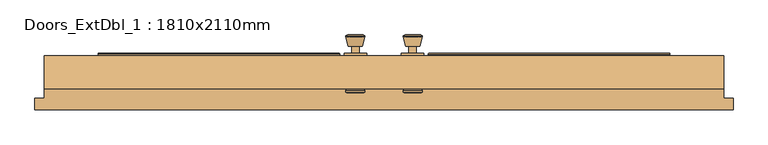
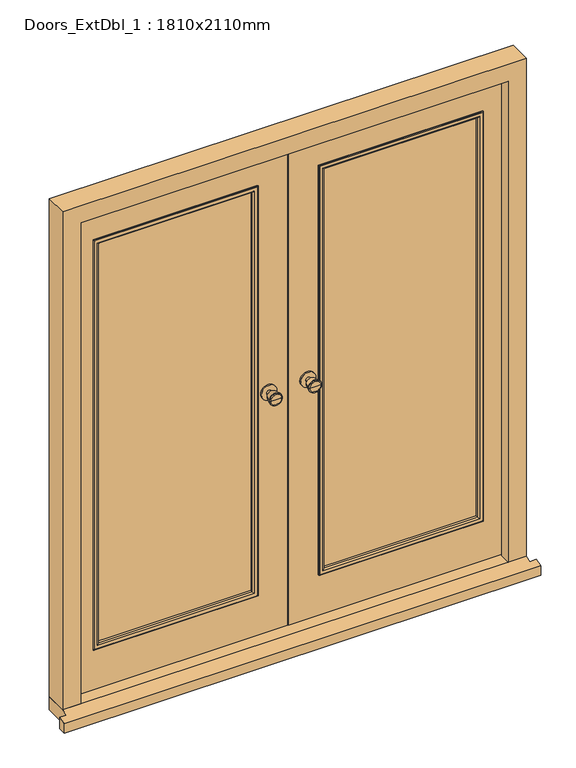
"""IFC4 building model written with IfcOpenShell, lengths in millimetres: door geometry, Doors_ExtDbl_1 : 1810x2110mm."""

from ifc_helpers import new_model, si_unit, point, frame, frame_2d, origin, place, context, project, spatial, polyline, circle_curve, ellipse_curve, trimmed, segment, composite_curve, outline, extrude, faceted_brep, source, transform, mapped, element, save
from ifc_brep_helpers import plane_surface, cylinder_surface, revolved_surface, advanced_brep


def doors_extdbl_1_1810x2110mm_0b28ebda(model_context):
    return source(origin(), model_context, "Body", "SolidModel", [
        advanced_brep(
        [(-76.5, 12.0, 1050.0), (-86.5, 12.0, 1050.0), (-66.5, 12.0, 1050.0), (-96.9758676, 61.0, 1050.0), (-76.5, 61.0, 1050.0), (-56.0241324, 61.0, 1050.0), (-101.5, 59.1721319, 1050.0), (-51.5, 59.1721319, 1050.0), (-101.5, 55.7084537, 1050.0), (-51.5, 55.7084537, 1050.0), (-95.136236, 31.0, 1050.0), (-57.863764, 31.0, 1050.0), (-86.5, 31.0, 1050.0), (-66.5, 31.0, 1050.0)],
        [
            (0, 1),
            (1, 2, circle_curve(frame((-76.5, 12.0, 1050.0), z_axis=(0.0, -1.0, 0.0), x_axis=(1.0, 0.0, 0.0)), 10.0)),
            (2, 0),
            (2, 1, circle_curve(frame((-76.5, 12.0, 1050.0), z_axis=(0.0, -1.0, 0.0), x_axis=(1.0, 0.0, 0.0)), 10.0)),
            (3, 4),
            (4, 5),
            (5, 3, circle_curve(frame((-76.5, 61.0, 1050.0), z_axis=(0.0, 1.0, 0.0), x_axis=(1.0, 0.0, 0.0)), 20.4758676)),
            (3, 5, circle_curve(frame((-76.5, 61.0, 1050.0), z_axis=(0.0, 1.0, 0.0), x_axis=(1.0, 0.0, 0.0)), 20.4758676)),
            (6, 3),
            (5, 7),
            (7, 6, circle_curve(frame((-76.5, 59.1721319, 1050.0), z_axis=(0.0, 1.0, 0.0), x_axis=(1.0, 0.0, 0.0)), 25.0)),
            (6, 7, circle_curve(frame((-76.5, 59.1721319, 1050.0), z_axis=(0.0, 1.0, 0.0), x_axis=(1.0, 0.0, 0.0)), 25.0)),
            (8, 6),
            (7, 9),
            (9, 8, circle_curve(frame((-76.5, 55.7084537, 1050.0), z_axis=(0.0, 1.0, 0.0), x_axis=(1.0, 0.0, 0.0)), 25.0)),
            (8, 9, circle_curve(frame((-76.5, 55.7084537, 1050.0), z_axis=(0.0, 1.0, 0.0), x_axis=(1.0, 0.0, 0.0)), 25.0)),
            (10, 8),
            (9, 11),
            (11, 10, circle_curve(frame((-76.5, 31.0, 1050.0), z_axis=(0.0, 1.0, 0.0), x_axis=(1.0, 0.0, 0.0)), 18.636236)),
            (10, 11, circle_curve(frame((-76.5, 31.0, 1050.0), z_axis=(0.0, 1.0, 0.0), x_axis=(1.0, 0.0, 0.0)), 18.636236)),
            (12, 10),
            (11, 13),
            (13, 12, circle_curve(frame((-76.5, 31.0, 1050.0), z_axis=(0.0, 1.0, 0.0), x_axis=(1.0, 0.0, 0.0)), 10.0)),
            (12, 13, circle_curve(frame((-76.5, 31.0, 1050.0), z_axis=(0.0, 1.0, 0.0), x_axis=(1.0, 0.0, 0.0)), 10.0)),
            (1, 12),
            (13, 2),
        ],
        [
            plane_surface(frame((-76.5, 12.0, 1050.0), z_axis=(0.0, -1.0, 0.0), x_axis=(1.0, 0.0, 0.0))),
            plane_surface(frame((-76.5, 61.0, 1050.0), z_axis=(0.0, 1.0, 0.0), x_axis=(1.0, 0.0, 0.0))),
            revolved_surface(polyline([(-56.0241324, 61.0, 1050.0), (-51.5, 59.1721319, 1050.0)]), (-76.5, 12.0, 1050.0), (0.0, -1.0, 0.0)),
            cylinder_surface(frame((-76.5, 12.0, 1050.0), z_axis=(0.0, -1.0, 0.0), x_axis=(1.0, 0.0, 0.0)), 25.0),
            revolved_surface(polyline([(-51.5, 55.7084537, 1050.0), (-57.863764, 31.0, 1050.0)]), (-76.5, 12.0, 1050.0), (0.0, -1.0, 0.0)),
            plane_surface(frame((-76.5, 31.0, 1050.0), z_axis=(0.0, -1.0, 0.0), x_axis=(1.0, 0.0, 0.0))),
            cylinder_surface(frame((-76.5, 12.0, 1050.0), z_axis=(0.0, -1.0, 0.0), x_axis=(1.0, 0.0, 0.0)), 10.0),
        ],
        [
            (0, [[1, 2, 3]]),
            (0, [[-3, 4, -1]]),
            (1, [[5, 6, 7]]),
            (1, [[-6, -5, 8]]),
            (2, [[9, -7, 10, 11]]),
            (2, [[-10, -8, -9, 12]]),
            (3, [[13, -11, 14, 15]]),
            (3, [[-14, -12, -13, 16]]),
            (4, [[17, -15, 18, 19]]),
            (4, [[-18, -16, -17, 20]]),
            (5, [[21, -19, 22, 23]]),
            (5, [[-22, -20, -21, 24]]),
            (6, [[25, -23, 26, -2]]),
            (6, [[-26, -24, -25, -4]]),
        ],
    ),
        extrude(outline(composite_curve([segment(trimmed(circle_curve(frame_2d((1050.0, -76.5)), 30.0), [point((1050.0, -46.5))], [point((1050.0, -106.5))], False, "CARTESIAN"), True, "CONTINUOUS"), segment(trimmed(circle_curve(frame_2d((1050.0, -76.5)), 30.0), [point((1050.0, -106.5))], [point((1050.0, -46.5))], False, "CARTESIAN"), True, "CONTINUOUS")], self_intersect=False)), frame((0.0, 6.0, 0.0), z_axis=(0.0, 1.0, 0.0), x_axis=(0.0, 0.0, 1.0)), (0.0, 0.0, 1.0), 6.0),
        advanced_brep(
        [(76.5, 12.0, 1050.0), (66.5, 12.0, 1050.0), (86.5, 12.0, 1050.0), (96.9758676, 61.0, 1050.0), (56.0241324, 61.0, 1050.0), (76.5, 61.0, 1050.0), (101.5, 59.1721319, 1050.0), (51.5, 59.1721319, 1050.0), (101.5, 55.7084537, 1050.0), (51.5, 55.7084537, 1050.0), (95.136236, 31.0, 1050.0), (57.863764, 31.0, 1050.0), (86.5, 31.0, 1050.0), (66.5, 31.0, 1050.0)],
        [
            (0, 1),
            (1, 2, circle_curve(frame((76.5, 12.0, 1050.0), z_axis=(0.0, -1.0, 0.0), x_axis=(-1.0, 0.0, 0.0)), 10.0)),
            (2, 0),
            (2, 1, circle_curve(frame((76.5, 12.0, 1050.0), z_axis=(0.0, -1.0, 0.0), x_axis=(-1.0, 0.0, 0.0)), 10.0)),
            (3, 4, circle_curve(frame((76.5, 61.0, 1050.0), z_axis=(0.0, 1.0, 0.0), x_axis=(-1.0, 0.0, 0.0)), 20.4758676)),
            (4, 5),
            (5, 3),
            (4, 3, circle_curve(frame((76.5, 61.0, 1050.0), z_axis=(0.0, 1.0, 0.0), x_axis=(-1.0, 0.0, 0.0)), 20.4758676)),
            (6, 7, circle_curve(frame((76.5, 59.1721319, 1050.0), z_axis=(0.0, 1.0, 0.0), x_axis=(-1.0, 0.0, 0.0)), 25.0)),
            (7, 4),
            (3, 6),
            (7, 6, circle_curve(frame((76.5, 59.1721319, 1050.0), z_axis=(0.0, 1.0, 0.0), x_axis=(-1.0, 0.0, 0.0)), 25.0)),
            (8, 9, circle_curve(frame((76.5, 55.7084537, 1050.0), z_axis=(0.0, 1.0, 0.0), x_axis=(-1.0, 0.0, 0.0)), 25.0)),
            (9, 7),
            (6, 8),
            (9, 8, circle_curve(frame((76.5, 55.7084537, 1050.0), z_axis=(0.0, 1.0, 0.0), x_axis=(-1.0, 0.0, 0.0)), 25.0)),
            (10, 11, circle_curve(frame((76.5, 31.0, 1050.0), z_axis=(0.0, 1.0, 0.0), x_axis=(-1.0, 0.0, 0.0)), 18.636236)),
            (11, 9),
            (8, 10),
            (11, 10, circle_curve(frame((76.5, 31.0, 1050.0), z_axis=(0.0, 1.0, 0.0), x_axis=(-1.0, 0.0, 0.0)), 18.636236)),
            (12, 13, circle_curve(frame((76.5, 31.0, 1050.0), z_axis=(0.0, 1.0, 0.0), x_axis=(-1.0, 0.0, 0.0)), 10.0)),
            (13, 11),
            (10, 12),
            (13, 12, circle_curve(frame((76.5, 31.0, 1050.0), z_axis=(0.0, 1.0, 0.0), x_axis=(-1.0, 0.0, 0.0)), 10.0)),
            (1, 13),
            (12, 2),
        ],
        [
            plane_surface(frame((76.5, 12.0, 1050.0), z_axis=(0.0, -1.0, 0.0), x_axis=(-1.0, 0.0, 0.0))),
            plane_surface(frame((76.5, 61.0, 1050.0), z_axis=(0.0, 1.0, 0.0), x_axis=(-1.0, 0.0, 0.0))),
            revolved_surface(polyline([(56.0241324, 61.0, 1050.0), (51.5, 59.1721319, 1050.0)]), (76.5, 12.0, 1050.0), (0.0, -1.0, 0.0)),
            cylinder_surface(frame((76.5, 12.0, 1050.0), z_axis=(0.0, -1.0, 0.0), x_axis=(-1.0, 0.0, 0.0)), 25.0),
            revolved_surface(polyline([(51.5, 55.7084537, 1050.0), (57.863764, 31.0, 1050.0)]), (76.5, 12.0, 1050.0), (0.0, -1.0, 0.0)),
            plane_surface(frame((76.5, 31.0, 1050.0), z_axis=(0.0, -1.0, 0.0), x_axis=(-1.0, 0.0, 0.0))),
            cylinder_surface(frame((76.5, 12.0, 1050.0), z_axis=(0.0, -1.0, 0.0), x_axis=(-1.0, 0.0, 0.0)), 10.0),
        ],
        [
            (0, [[1, 2, 3]]),
            (0, [[-3, 4, -1]]),
            (1, [[5, 6, 7]]),
            (1, [[8, -7, -6]]),
            (2, [[9, 10, -5, 11]]),
            (2, [[12, -11, -8, -10]]),
            (3, [[13, 14, -9, 15]]),
            (3, [[16, -15, -12, -14]]),
            (4, [[17, 18, -13, 19]]),
            (4, [[20, -19, -16, -18]]),
            (5, [[21, 22, -17, 23]]),
            (5, [[24, -23, -20, -22]]),
            (6, [[-2, 25, -21, 26]]),
            (6, [[-4, -26, -24, -25]]),
        ],
    ),
        extrude(outline(composite_curve([segment(trimmed(circle_curve(frame_2d((1050.0, 76.5)), 30.0), [point((1050.0, 46.5))], [point((1050.0, 106.5))], False, "CARTESIAN"), True, "CONTINUOUS"), segment(trimmed(circle_curve(frame_2d((1050.0, 76.5)), 30.0), [point((1050.0, 106.5))], [point((1050.0, 46.5))], False, "CARTESIAN"), True, "CONTINUOUS")], self_intersect=False)), frame((0.0, 6.0, 0.0), z_axis=(0.0, 1.0, 0.0), x_axis=(0.0, 0.0, 1.0)), (0.0, 0.0, 1.0), 6.0),
        advanced_brep(
        [(-76.5, -44.0, 1050.0), (-66.5, -44.0, 1050.0), (-86.5, -44.0, 1050.0), (-96.9758676, -93.0, 1050.0), (-56.0241324, -93.0, 1050.0), (-76.5, -93.0, 1050.0), (-101.5, -91.1721319, 1050.0), (-51.5, -91.1721319, 1050.0), (-101.5, -87.7084537, 1050.0), (-51.5, -87.7084537, 1050.0), (-95.136236, -63.0, 1050.0), (-57.863764, -63.0, 1050.0), (-86.5, -63.0, 1050.0), (-66.5, -63.0, 1050.0)],
        [
            (0, 1),
            (1, 2, circle_curve(frame((-76.5, -44.0, 1050.0), z_axis=(0.0, 1.0, 0.0), x_axis=(1.0, 0.0, 0.0)), 10.0)),
            (2, 0),
            (2, 1, circle_curve(frame((-76.5, -44.0, 1050.0), z_axis=(0.0, 1.0, 0.0), x_axis=(1.0, 0.0, 0.0)), 10.0)),
            (3, 4, circle_curve(frame((-76.5, -93.0, 1050.0), z_axis=(0.0, -1.0, 0.0), x_axis=(1.0, 0.0, 0.0)), 20.4758676)),
            (4, 5),
            (5, 3),
            (4, 3, circle_curve(frame((-76.5, -93.0, 1050.0), z_axis=(0.0, -1.0, 0.0), x_axis=(1.0, 0.0, 0.0)), 20.4758676)),
            (6, 7, circle_curve(frame((-76.5, -91.1721319, 1050.0), z_axis=(0.0, -1.0, 0.0), x_axis=(1.0, 0.0, 0.0)), 25.0)),
            (7, 4),
            (3, 6),
            (7, 6, circle_curve(frame((-76.5, -91.1721319, 1050.0), z_axis=(0.0, -1.0, 0.0), x_axis=(1.0, 0.0, 0.0)), 25.0)),
            (8, 9, circle_curve(frame((-76.5, -87.7084537, 1050.0), z_axis=(0.0, -1.0, 0.0), x_axis=(1.0, 0.0, 0.0)), 25.0)),
            (9, 7),
            (6, 8),
            (9, 8, circle_curve(frame((-76.5, -87.7084537, 1050.0), z_axis=(0.0, -1.0, 0.0), x_axis=(1.0, 0.0, 0.0)), 25.0)),
            (10, 11, circle_curve(frame((-76.5, -63.0, 1050.0), z_axis=(0.0, -1.0, 0.0), x_axis=(1.0, 0.0, 0.0)), 18.636236)),
            (11, 9),
            (8, 10),
            (11, 10, circle_curve(frame((-76.5, -63.0, 1050.0), z_axis=(0.0, -1.0, 0.0), x_axis=(1.0, 0.0, 0.0)), 18.636236)),
            (12, 13, circle_curve(frame((-76.5, -63.0, 1050.0), z_axis=(0.0, -1.0, 0.0), x_axis=(1.0, 0.0, 0.0)), 10.0)),
            (13, 11),
            (10, 12),
            (13, 12, circle_curve(frame((-76.5, -63.0, 1050.0), z_axis=(0.0, -1.0, 0.0), x_axis=(1.0, 0.0, 0.0)), 10.0)),
            (1, 13),
            (12, 2),
        ],
        [
            plane_surface(frame((-76.5, -44.0, 1050.0), z_axis=(0.0, 1.0, 0.0), x_axis=(1.0, 0.0, 0.0))),
            plane_surface(frame((-76.5, -93.0, 1050.0), z_axis=(0.0, -1.0, 0.0), x_axis=(1.0, 0.0, 0.0))),
            revolved_surface(polyline([(-56.0241324, -93.0, 1050.0), (-51.5, -91.1721319, 1050.0)]), (-76.5, -44.0, 1050.0), (0.0, 1.0, 0.0)),
            cylinder_surface(frame((-76.5, -44.0, 1050.0), z_axis=(0.0, 1.0, 0.0), x_axis=(1.0, 0.0, 0.0)), 25.0),
            revolved_surface(polyline([(-51.5, -87.7084537, 1050.0), (-57.863764, -63.0, 1050.0)]), (-76.5, -44.0, 1050.0), (0.0, 1.0, 0.0)),
            plane_surface(frame((-76.5, -63.0, 1050.0), z_axis=(0.0, 1.0, 0.0), x_axis=(1.0, 0.0, 0.0))),
            cylinder_surface(frame((-76.5, -44.0, 1050.0), z_axis=(0.0, 1.0, 0.0), x_axis=(1.0, 0.0, 0.0)), 10.0),
        ],
        [
            (0, [[1, 2, 3]]),
            (0, [[-3, 4, -1]]),
            (1, [[5, 6, 7]]),
            (1, [[8, -7, -6]]),
            (2, [[9, 10, -5, 11]]),
            (2, [[12, -11, -8, -10]]),
            (3, [[13, 14, -9, 15]]),
            (3, [[16, -15, -12, -14]]),
            (4, [[17, 18, -13, 19]]),
            (4, [[20, -19, -16, -18]]),
            (5, [[21, 22, -17, 23]]),
            (5, [[24, -23, -20, -22]]),
            (6, [[-2, 25, -21, 26]]),
            (6, [[-4, -26, -24, -25]]),
        ],
    ),
        extrude(outline(composite_curve([segment(trimmed(circle_curve(frame_2d((1050.0, -76.5)), 30.0), [point((1050.0, -46.5))], [point((1050.0, -106.5))], False, "CARTESIAN"), True, "CONTINUOUS"), segment(trimmed(circle_curve(frame_2d((1050.0, -76.5)), 30.0), [point((1050.0, -106.5))], [point((1050.0, -46.5))], False, "CARTESIAN"), True, "CONTINUOUS")], self_intersect=False)), frame((0.0, -44.0, 0.0), z_axis=(0.0, 1.0, 0.0), x_axis=(0.0, 0.0, 1.0)), (0.0, 0.0, 1.0), 6.0),
        advanced_brep(
        [(76.5, -44.0, 1050.0), (86.5, -44.0, 1050.0), (66.5, -44.0, 1050.0), (96.9758676, -93.0, 1050.0), (76.5, -93.0, 1050.0), (56.0241324, -93.0, 1050.0), (101.5, -91.1721319, 1050.0), (51.5, -91.1721319, 1050.0), (101.5, -87.7084537, 1050.0), (51.5, -87.7084537, 1050.0), (95.136236, -63.0, 1050.0), (57.863764, -63.0, 1050.0), (86.5, -63.0, 1050.0), (66.5, -63.0, 1050.0)],
        [
            (0, 1),
            (1, 2, circle_curve(frame((76.5, -44.0, 1050.0), z_axis=(0.0, 1.0, 0.0), x_axis=(-1.0, 0.0, 0.0)), 10.0)),
            (2, 0),
            (2, 1, circle_curve(frame((76.5, -44.0, 1050.0), z_axis=(0.0, 1.0, 0.0), x_axis=(-1.0, 0.0, 0.0)), 10.0)),
            (3, 4),
            (4, 5),
            (5, 3, circle_curve(frame((76.5, -93.0, 1050.0), z_axis=(0.0, -1.0, 0.0), x_axis=(-1.0, 0.0, 0.0)), 20.4758676)),
            (3, 5, circle_curve(frame((76.5, -93.0, 1050.0), z_axis=(0.0, -1.0, 0.0), x_axis=(-1.0, 0.0, 0.0)), 20.4758676)),
            (6, 3),
            (5, 7),
            (7, 6, circle_curve(frame((76.5, -91.1721319, 1050.0), z_axis=(0.0, -1.0, 0.0), x_axis=(-1.0, 0.0, 0.0)), 25.0)),
            (6, 7, circle_curve(frame((76.5, -91.1721319, 1050.0), z_axis=(0.0, -1.0, 0.0), x_axis=(-1.0, 0.0, 0.0)), 25.0)),
            (8, 6),
            (7, 9),
            (9, 8, circle_curve(frame((76.5, -87.7084537, 1050.0), z_axis=(0.0, -1.0, 0.0), x_axis=(-1.0, 0.0, 0.0)), 25.0)),
            (8, 9, circle_curve(frame((76.5, -87.7084537, 1050.0), z_axis=(0.0, -1.0, 0.0), x_axis=(-1.0, 0.0, 0.0)), 25.0)),
            (10, 8),
            (9, 11),
            (11, 10, circle_curve(frame((76.5, -63.0, 1050.0), z_axis=(0.0, -1.0, 0.0), x_axis=(-1.0, 0.0, 0.0)), 18.636236)),
            (10, 11, circle_curve(frame((76.5, -63.0, 1050.0), z_axis=(0.0, -1.0, 0.0), x_axis=(-1.0, 0.0, 0.0)), 18.636236)),
            (12, 10),
            (11, 13),
            (13, 12, circle_curve(frame((76.5, -63.0, 1050.0), z_axis=(0.0, -1.0, 0.0), x_axis=(-1.0, 0.0, 0.0)), 10.0)),
            (12, 13, circle_curve(frame((76.5, -63.0, 1050.0), z_axis=(0.0, -1.0, 0.0), x_axis=(-1.0, 0.0, 0.0)), 10.0)),
            (1, 12),
            (13, 2),
        ],
        [
            plane_surface(frame((76.5, -44.0, 1050.0), z_axis=(0.0, 1.0, 0.0), x_axis=(-1.0, 0.0, 0.0))),
            plane_surface(frame((76.5, -93.0, 1050.0), z_axis=(0.0, -1.0, 0.0), x_axis=(-1.0, 0.0, 0.0))),
            revolved_surface(polyline([(56.0241324, -93.0, 1050.0), (51.5, -91.1721319, 1050.0)]), (76.5, -44.0, 1050.0), (0.0, 1.0, 0.0)),
            cylinder_surface(frame((76.5, -44.0, 1050.0), z_axis=(0.0, 1.0, 0.0), x_axis=(-1.0, 0.0, 0.0)), 25.0),
            revolved_surface(polyline([(51.5, -87.7084537, 1050.0), (57.863764, -63.0, 1050.0)]), (76.5, -44.0, 1050.0), (0.0, 1.0, 0.0)),
            plane_surface(frame((76.5, -63.0, 1050.0), z_axis=(0.0, 1.0, 0.0), x_axis=(-1.0, 0.0, 0.0))),
            cylinder_surface(frame((76.5, -44.0, 1050.0), z_axis=(0.0, 1.0, 0.0), x_axis=(-1.0, 0.0, 0.0)), 10.0),
        ],
        [
            (0, [[1, 2, 3]]),
            (0, [[-3, 4, -1]]),
            (1, [[5, 6, 7]]),
            (1, [[-6, -5, 8]]),
            (2, [[9, -7, 10, 11]]),
            (2, [[-10, -8, -9, 12]]),
            (3, [[13, -11, 14, 15]]),
            (3, [[-14, -12, -13, 16]]),
            (4, [[17, -15, 18, 19]]),
            (4, [[-18, -16, -17, 20]]),
            (5, [[21, -19, 22, 23]]),
            (5, [[-22, -20, -21, 24]]),
            (6, [[25, -23, 26, -2]]),
            (6, [[-26, -24, -25, -4]]),
        ],
    ),
        extrude(outline(composite_curve([segment(trimmed(circle_curve(frame_2d((1050.0, 76.5)), 30.0), [point((1050.0, 46.5))], [point((1050.0, 106.5))], False, "CARTESIAN"), True, "CONTINUOUS"), segment(trimmed(circle_curve(frame_2d((1050.0, 76.5)), 30.0), [point((1050.0, 106.5))], [point((1050.0, 46.5))], False, "CARTESIAN"), True, "CONTINUOUS")], self_intersect=False)), frame((0.0, -44.0, 0.0), z_axis=(0.0, 1.0, 0.0), x_axis=(0.0, 0.0, 1.0)), (0.0, 0.0, 1.0), 6.0),
        faceted_brep([(834.5, -83.0, 54.5), (834.5, -41.0, 54.5), (856.5, -41.0, 54.5), (856.5, 6.0, 54.5), (905.0, 6.0, 54.5), (905.0, -83.0, 54.5), (905.0, -83.0, 2110.0), (-905.0, -83.0, 2110.0), (-905.0, -83.0, 54.5), (-834.5, -83.0, 54.5), (-834.5, -83.0, 2039.5), (834.5, -83.0, 2039.5), (905.0, 6.0, 2110.0), (856.5, 6.0, 2061.5), (-856.5, 6.0, 2061.5), (-856.5, 6.0, 54.5), (-905.0, 6.0, 54.5), (-905.0, 6.0, 2110.0), (856.5, -41.0, 2061.5), (834.5, -41.0, 2039.5), (-834.5, -41.0, 2039.5), (-834.5, -41.0, 54.5), (-856.5, -41.0, 54.5), (-856.5, -41.0, 2061.5)], [[[0, 1, 2, 3, 4, 5]], [[5, 6, 7, 8, 9, 10, 11, 0]], [[4, 12, 6, 5]], [[3, 13, 14, 15, 16, 17, 12, 4]], [[2, 18, 13, 3]], [[1, 19, 20, 21, 22, 23, 18, 2]], [[0, 11, 19, 1]], [[10, 9, 21, 20]], [[9, 8, 16, 15, 22, 21]], [[17, 16, 8, 7]], [[23, 22, 15, 14]], [[12, 17, 7, 6]], [[18, 23, 14, 13]], [[11, 10, 20, 19]]]),
        extrude(outline(polyline([(58.5, 853.5), (2058.5, 853.5), (2058.5, 1.5), (58.5, 1.5), (58.5, 853.5)]), holes=[polyline([(1908.5, 753.5), (233.5, 753.5), (233.5, 126.5), (1908.5, 126.5), (1908.5, 753.5)])]), frame((0.0, -38.0, 0.0), z_axis=(0.0, 1.0, 0.0), x_axis=(0.0, 0.0, 1.0)), (0.0, 0.0, 1.0), 44.0),
        extrude(outline(polyline([(58.5, -853.5), (58.5, -1.5), (2058.5, -1.5), (2058.5, -853.5), (58.5, -853.5)]), holes=[polyline([(1908.5, -126.5), (233.5, -126.5), (233.5, -753.5), (1908.5, -753.5), (1908.5, -126.5)])]), frame((0.0, -38.0, 0.0), z_axis=(0.0, 1.0, 0.0), x_axis=(0.0, 0.0, 1.0)), (0.0, 0.0, 1.0), 44.0),
        faceted_brep([(930.0, -138.0, 0.0), (930.0, -108.0, 0.0), (930.0, -108.0, 47.2703282), (930.0, -138.0, 38.5947221), (-930.0, -138.0, 38.5947221), (-930.0, -108.0, 47.2703282), (-930.0, -108.0, 0.0), (-930.0, -138.0, 0.0), (-905.0, -108.0, 0.0), (-905.0, 6.0, 0.0), (905.0, 6.0, 0.0), (905.0, -108.0, 0.0), (905.0, -108.0, 47.2703282), (905.0, -83.0, 54.5), (-905.0, -83.0, 54.5), (-905.0, -108.0, 47.2703282), (905.0, 6.0, 54.5), (-905.0, 6.0, 54.5)], [[[0, 1, 2, 3]], [[4, 5, 6, 7]], [[7, 6, 8, 9, 10, 11, 1, 0]], [[3, 4, 7, 0]], [[3, 2, 12, 13, 14, 15, 5, 4]], [[14, 13, 16, 17]], [[17, 16, 10, 9]], [[15, 14, 17, 9, 8]], [[8, 6, 5, 15]], [[11, 10, 16, 13, 12]], [[12, 2, 1, 11]]]),
        extrude(outline(polyline([(126.5, -28.0), (126.5, -4.0), (751.9390207, -4.0), (751.9390207, -28.0), (126.5, -28.0)])), frame((0.0, 0.0, 233.5), z_axis=(0.0, 0.0, 1.0), x_axis=(1.0, 0.0, 0.0)), (0.0, 0.0, 1.0), 1675.0),
        extrude(outline(polyline([(-753.5, -28.0), (-753.5, -4.0), (-126.5, -4.0), (-126.5, -28.0), (-753.5, -28.0)])), frame((0.0, 0.0, 233.5), z_axis=(0.0, 0.0, 1.0), x_axis=(1.0, 0.0, 0.0)), (0.0, 0.0, 1.0), 1675.0),
        advanced_brep(
        [(118.5, -42.0, 225.5), (118.5, -42.0, 1916.5), (118.5, -38.0, 1916.5), (118.5, -38.0, 225.5), (120.5, -44.0, 227.5), (120.5, -44.0, 1914.5), (138.5, -39.0, 245.5), (138.5, -39.0, 1896.5), (133.5, -44.0, 1901.5), (133.5, -44.0, 240.5), (138.5, -28.0, 245.5), (138.5, -28.0, 1896.5), (126.5, -38.0, 233.5), (126.5, -38.0, 1908.5), (126.5, -28.0, 1908.5), (126.5, -28.0, 233.5), (761.5, -42.0, 1916.5), (761.5, -38.0, 1916.5), (759.5, -44.0, 1914.5), (741.5, -39.0, 1896.5), (746.5, -44.0, 1901.5), (741.5, -28.0, 1896.5), (753.5, -38.0, 1908.5), (753.5, -28.0, 1908.5), (761.5, -42.0, 225.5), (761.5, -38.0, 225.5), (759.5, -44.0, 227.5), (741.5, -39.0, 245.5), (746.5, -44.0, 240.5), (741.5, -28.0, 245.5), (753.5, -38.0, 233.5), (753.5, -28.0, 233.5)],
        [
            (0, 1),
            (1, 2),
            (2, 3),
            (3, 0),
            (4, 5),
            (5, 1, ellipse_curve(frame((120.5, -42.0, 1914.5), z_axis=(-0.7071067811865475, 0.0, -0.7071067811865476), x_axis=(0.7071067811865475, 0.0, -0.7071067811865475)), 2.8284271, 2.0)),
            (0, 4, ellipse_curve(frame((120.5, -42.0, 227.5), z_axis=(-0.7071067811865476, 0.0, 0.7071067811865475), x_axis=(-0.7071067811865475, 0.0, -0.7071067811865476)), 2.8284271, 2.0)),
            (6, 7),
            (7, 8, ellipse_curve(frame((133.5, -39.0, 1901.5), z_axis=(-0.7071067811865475, 0.0, -0.7071067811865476), x_axis=(0.7071067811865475, 0.0, -0.7071067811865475)), 7.0710678, 5.0)),
            (8, 9),
            (9, 6, ellipse_curve(frame((133.5, -39.0, 240.5), z_axis=(-0.7071067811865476, 0.0, 0.7071067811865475), x_axis=(-0.7071067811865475, 0.0, -0.7071067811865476)), 7.0710678, 5.0)),
            (10, 11),
            (11, 7),
            (6, 10),
            (12, 13),
            (13, 14),
            (14, 15),
            (15, 12),
            (1, 16),
            (16, 17),
            (17, 2),
            (5, 18),
            (18, 16, ellipse_curve(frame((759.5, -42.0, 1914.5), z_axis=(-0.7071067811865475, 0.0, 0.7071067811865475), x_axis=(-0.7071067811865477, 0.0, -0.7071067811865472)), 2.8284271, 2.0)),
            (7, 19),
            (19, 20, ellipse_curve(frame((746.5, -39.0, 1901.5), z_axis=(-0.7071067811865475, 0.0, 0.7071067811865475), x_axis=(-0.7071067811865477, 0.0, -0.7071067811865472)), 7.0710678, 5.0)),
            (20, 8),
            (11, 21),
            (21, 19),
            (13, 22),
            (22, 23),
            (23, 14),
            (16, 24),
            (24, 25),
            (25, 17),
            (18, 26),
            (26, 24, ellipse_curve(frame((759.5, -42.0, 227.5), z_axis=(0.7071067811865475, 0.0, 0.7071067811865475), x_axis=(-0.7071067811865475, 0.0, 0.7071067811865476)), 2.8284271, 2.0)),
            (19, 27),
            (27, 28, ellipse_curve(frame((746.5, -39.0, 240.5), z_axis=(0.7071067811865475, 0.0, 0.7071067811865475), x_axis=(-0.7071067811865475, 0.0, 0.7071067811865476)), 7.0710678, 5.0)),
            (28, 20),
            (21, 29),
            (29, 27),
            (22, 30),
            (30, 31),
            (31, 23),
            (24, 0),
            (3, 25),
            (26, 4),
            (28, 9),
            (27, 6),
            (29, 10),
            (31, 15),
            (30, 12),
        ],
        [
            plane_surface(frame((118.5, -38.0, 225.5), z_axis=(-1.0, 0.0, 0.0), x_axis=(0.0, 0.0, 1.0))),
            cylinder_surface(frame((120.5, -42.0, 233.5), z_axis=(0.0, 0.0, -1.0), x_axis=(-1.0, 0.0, 0.0)), 2.0),
            cylinder_surface(frame((133.5, -39.0, 233.5), z_axis=(0.0, 0.0, -1.0), x_axis=(-1.0, 0.0, 0.0)), 5.0),
            plane_surface(frame((138.5, -39.0, 245.5), z_axis=(1.0, 0.0, 0.0), x_axis=(0.0, 0.0, 1.0))),
            plane_surface(frame((126.5, -28.0, 233.5), z_axis=(-1.0, 0.0, 0.0), x_axis=(0.0, 0.0, 1.0))),
            plane_surface(frame((118.5, -38.0, 1916.5), z_axis=(0.0, 0.0, 1.0), x_axis=(1.0, 0.0, 0.0))),
            cylinder_surface(frame((126.5, -42.0, 1914.5), z_axis=(-1.0, 0.0, 0.0), x_axis=(0.0, 0.0, 1.0)), 2.0),
            cylinder_surface(frame((126.5, -39.0, 1901.5), z_axis=(-1.0, 0.0, 0.0), x_axis=(0.0, 0.0, 1.0)), 5.0),
            plane_surface(frame((138.5, -39.0, 1896.5), z_axis=(0.0, 0.0, -1.0), x_axis=(1.0, 0.0, 0.0))),
            plane_surface(frame((126.5, -28.0, 1908.5), z_axis=(0.0, 0.0, 1.0), x_axis=(1.0, 0.0, 0.0))),
            plane_surface(frame((761.5, -38.0, 1916.5), z_axis=(1.0, 0.0, 0.0), x_axis=(0.0, 0.0, -1.0))),
            cylinder_surface(frame((759.5, -42.0, 1908.5), z_axis=(0.0, 0.0, 1.0), x_axis=(1.0, 0.0, 0.0)), 2.0),
            cylinder_surface(frame((746.5, -39.0, 1908.5), z_axis=(0.0, 0.0, 1.0), x_axis=(1.0, 0.0, 0.0)), 5.0),
            plane_surface(frame((741.5, -39.0, 1896.5), z_axis=(-1.0, 0.0, 0.0), x_axis=(0.0, 0.0, -1.0))),
            plane_surface(frame((753.5, -28.0, 1908.5), z_axis=(1.0, 0.0, 0.0), x_axis=(0.0, 0.0, -1.0))),
            plane_surface(frame((761.5, -38.0, 225.5), z_axis=(0.0, 0.0, -1.0), x_axis=(-1.0, 0.0, 0.0))),
            cylinder_surface(frame((753.5, -42.0, 227.5), z_axis=(1.0, 0.0, 0.0), x_axis=(0.0, 0.0, -1.0)), 2.0),
            plane_surface(frame((759.5, -44.0, 227.5), z_axis=(0.0, -1.0, 0.0), x_axis=(-1.0, 0.0, 0.0))),
            cylinder_surface(frame((753.5, -39.0, 240.5), z_axis=(1.0, 0.0, 0.0), x_axis=(0.0, 0.0, -1.0)), 5.0),
            plane_surface(frame((741.5, -39.0, 245.5), z_axis=(0.0, 0.0, 1.0), x_axis=(-1.0, 0.0, 0.0))),
            plane_surface(frame((741.5, -28.0, 245.5), z_axis=(0.0, 1.0, 0.0), x_axis=(-1.0, 0.0, 0.0))),
            plane_surface(frame((753.5, -28.0, 233.5), z_axis=(0.0, 0.0, -1.0), x_axis=(-1.0, 0.0, 0.0))),
            plane_surface(frame((753.5, -38.0, 233.5), z_axis=(0.0, 1.0, 0.0), x_axis=(-1.0, 0.0, 0.0))),
        ],
        [
            (0, [[1, 2, 3, 4]]),
            (1, [[5, 6, -1, 7]]),
            (2, [[8, 9, 10, 11]]),
            (3, [[12, 13, -8, 14]]),
            (4, [[15, 16, 17, 18]]),
            (5, [[19, 20, 21, -2]]),
            (6, [[22, 23, -19, -6]]),
            (7, [[24, 25, 26, -9]]),
            (8, [[27, 28, -24, -13]]),
            (9, [[29, 30, 31, -16]]),
            (10, [[32, 33, 34, -20]]),
            (11, [[35, 36, -32, -23]]),
            (12, [[37, 38, 39, -25]]),
            (13, [[40, 41, -37, -28]]),
            (14, [[42, 43, 44, -30]]),
            (15, [[45, -4, 46, -33]]),
            (16, [[47, -7, -45, -36]]),
            (17, [[-5, -47, -35, -22], [-10, -26, -39, 48]]),
            (18, [[49, -11, -48, -38]]),
            (19, [[50, -14, -49, -41]]),
            (20, [[-17, -31, -44, 51], [-12, -50, -40, -27]]),
            (21, [[52, -18, -51, -43]]),
            (22, [[-3, -21, -34, -46], [-15, -52, -42, -29]]),
        ],
    ),
        advanced_brep(
        [(-761.5, -42.0, 225.5), (-761.5, -42.0, 1916.5), (-761.5, -38.0, 1916.5), (-761.5, -38.0, 225.5), (-759.5, -44.0, 227.5), (-759.5, -44.0, 1914.5), (-741.5, -39.0, 245.5), (-741.5, -39.0, 1896.5), (-746.5, -44.0, 1901.5), (-746.5, -44.0, 240.5), (-741.5, -28.0, 245.5), (-741.5, -28.0, 1896.5), (-753.5, -38.0, 233.5), (-753.5, -38.0, 1908.5), (-753.5, -28.0, 1908.5), (-753.5, -28.0, 233.5), (-118.5, -42.0, 1916.5), (-118.5, -38.0, 1916.5), (-120.5, -44.0, 1914.5), (-138.5, -39.0, 1896.5), (-133.5, -44.0, 1901.5), (-138.5, -28.0, 1896.5), (-126.5, -38.0, 1908.5), (-126.5, -28.0, 1908.5), (-118.5, -42.0, 225.5), (-118.5, -38.0, 225.5), (-120.5, -44.0, 227.5), (-138.5, -39.0, 245.5), (-133.5, -44.0, 240.5), (-138.5, -28.0, 245.5), (-126.5, -38.0, 233.5), (-126.5, -28.0, 233.5)],
        [
            (0, 1),
            (1, 2),
            (2, 3),
            (3, 0),
            (4, 5),
            (5, 1, ellipse_curve(frame((-759.5, -42.0, 1914.5), z_axis=(-0.7071067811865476, 0.0, -0.7071067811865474), x_axis=(0.7071067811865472, 0.0, -0.7071067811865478)), 2.8284271, 2.0)),
            (0, 4, ellipse_curve(frame((-759.5, -42.0, 227.5), z_axis=(-0.7071067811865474, 0.0, 0.7071067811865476), x_axis=(-0.7071067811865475, 0.0, -0.7071067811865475)), 2.8284271, 2.0)),
            (6, 7),
            (7, 8, ellipse_curve(frame((-746.5, -39.0, 1901.5), z_axis=(-0.7071067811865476, 0.0, -0.7071067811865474), x_axis=(0.7071067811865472, 0.0, -0.7071067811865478)), 7.0710678, 5.0)),
            (8, 9),
            (9, 6, ellipse_curve(frame((-746.5, -39.0, 240.5), z_axis=(-0.7071067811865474, 0.0, 0.7071067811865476), x_axis=(-0.7071067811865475, 0.0, -0.7071067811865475)), 7.0710678, 5.0)),
            (10, 11),
            (11, 7),
            (6, 10),
            (12, 13),
            (13, 14),
            (14, 15),
            (15, 12),
            (1, 16),
            (16, 17),
            (17, 2),
            (5, 18),
            (18, 16, ellipse_curve(frame((-120.5, -42.0, 1914.5), z_axis=(-0.7071067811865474, 0.0, 0.7071067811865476), x_axis=(-0.7071067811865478, 0.0, -0.7071067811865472)), 2.8284271, 2.0)),
            (7, 19),
            (19, 20, ellipse_curve(frame((-133.5, -39.0, 1901.5), z_axis=(-0.7071067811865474, 0.0, 0.7071067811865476), x_axis=(-0.7071067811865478, 0.0, -0.7071067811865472)), 7.0710678, 5.0)),
            (20, 8),
            (11, 21),
            (21, 19),
            (13, 22),
            (22, 23),
            (23, 14),
            (16, 24),
            (24, 25),
            (25, 17),
            (18, 26),
            (26, 24, ellipse_curve(frame((-120.5, -42.0, 227.5), z_axis=(0.7071067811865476, 0.0, 0.7071067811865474), x_axis=(-0.7071067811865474, 0.0, 0.7071067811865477)), 2.8284271, 2.0)),
            (19, 27),
            (27, 28, ellipse_curve(frame((-133.5, -39.0, 240.5), z_axis=(0.7071067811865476, 0.0, 0.7071067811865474), x_axis=(-0.7071067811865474, 0.0, 0.7071067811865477)), 7.0710678, 5.0)),
            (28, 20),
            (21, 29),
            (29, 27),
            (22, 30),
            (30, 31),
            (31, 23),
            (24, 0),
            (3, 25),
            (26, 4),
            (28, 9),
            (27, 6),
            (29, 10),
            (31, 15),
            (30, 12),
        ],
        [
            plane_surface(frame((-761.5, -38.0, 225.5), z_axis=(-1.0, 0.0, 0.0), x_axis=(0.0, 0.0, 1.0))),
            cylinder_surface(frame((-759.5, -42.0, 233.5), z_axis=(0.0, 0.0, -1.0), x_axis=(-1.0, 0.0, 0.0)), 2.0),
            cylinder_surface(frame((-746.5, -39.0, 233.5), z_axis=(0.0, 0.0, -1.0), x_axis=(-1.0, 0.0, 0.0)), 5.0),
            plane_surface(frame((-741.5, -39.0, 245.5), z_axis=(1.0, 0.0, 0.0), x_axis=(0.0, 0.0, 1.0))),
            plane_surface(frame((-753.5, -28.0, 233.5), z_axis=(-1.0, 0.0, 0.0), x_axis=(0.0, 0.0, 1.0))),
            plane_surface(frame((-761.5, -38.0, 1916.5), z_axis=(0.0, 0.0, 1.0), x_axis=(1.0, 0.0, 0.0))),
            cylinder_surface(frame((-753.5, -42.0, 1914.5), z_axis=(-1.0, 0.0, 0.0), x_axis=(0.0, 0.0, 1.0)), 2.0),
            cylinder_surface(frame((-753.5, -39.0, 1901.5), z_axis=(-1.0, 0.0, 0.0), x_axis=(0.0, 0.0, 1.0)), 5.0),
            plane_surface(frame((-741.5, -39.0, 1896.5), z_axis=(0.0, 0.0, -1.0), x_axis=(1.0, 0.0, 0.0))),
            plane_surface(frame((-753.5, -28.0, 1908.5), z_axis=(0.0, 0.0, 1.0), x_axis=(1.0, 0.0, 0.0))),
            plane_surface(frame((-118.5, -38.0, 1916.5), z_axis=(1.0, 0.0, 0.0), x_axis=(0.0, 0.0, -1.0))),
            cylinder_surface(frame((-120.5, -42.0, 1908.5), z_axis=(0.0, 0.0, 1.0), x_axis=(1.0, 0.0, 0.0)), 2.0),
            cylinder_surface(frame((-133.5, -39.0, 1908.5), z_axis=(0.0, 0.0, 1.0), x_axis=(1.0, 0.0, 0.0)), 5.0),
            plane_surface(frame((-138.5, -39.0, 1896.5), z_axis=(-1.0, 0.0, 0.0), x_axis=(0.0, 0.0, -1.0))),
            plane_surface(frame((-126.5, -28.0, 1908.5), z_axis=(1.0, 0.0, 0.0), x_axis=(0.0, 0.0, -1.0))),
            plane_surface(frame((-118.5, -38.0, 225.5), z_axis=(0.0, 0.0, -1.0), x_axis=(-1.0, 0.0, 0.0))),
            cylinder_surface(frame((-126.5, -42.0, 227.5), z_axis=(1.0, 0.0, 0.0), x_axis=(0.0, 0.0, -1.0)), 2.0),
            plane_surface(frame((-120.5, -44.0, 227.5), z_axis=(0.0, -1.0, 0.0), x_axis=(-1.0, 0.0, 0.0))),
            cylinder_surface(frame((-126.5, -39.0, 240.5), z_axis=(1.0, 0.0, 0.0), x_axis=(0.0, 0.0, -1.0)), 5.0),
            plane_surface(frame((-138.5, -39.0, 245.5), z_axis=(0.0, 0.0, 1.0), x_axis=(-1.0, 0.0, 0.0))),
            plane_surface(frame((-138.5, -28.0, 245.5), z_axis=(0.0, 1.0, 0.0), x_axis=(-1.0, 0.0, 0.0))),
            plane_surface(frame((-126.5, -28.0, 233.5), z_axis=(0.0, 0.0, -1.0), x_axis=(-1.0, 0.0, 0.0))),
            plane_surface(frame((-126.5, -38.0, 233.5), z_axis=(0.0, 1.0, 0.0), x_axis=(-1.0, 0.0, 0.0))),
        ],
        [
            (0, [[1, 2, 3, 4]]),
            (1, [[5, 6, -1, 7]]),
            (2, [[8, 9, 10, 11]]),
            (3, [[12, 13, -8, 14]]),
            (4, [[15, 16, 17, 18]]),
            (5, [[19, 20, 21, -2]]),
            (6, [[22, 23, -19, -6]]),
            (7, [[24, 25, 26, -9]]),
            (8, [[27, 28, -24, -13]]),
            (9, [[29, 30, 31, -16]]),
            (10, [[32, 33, 34, -20]]),
            (11, [[35, 36, -32, -23]]),
            (12, [[37, 38, 39, -25]]),
            (13, [[40, 41, -37, -28]]),
            (14, [[42, 43, 44, -30]]),
            (15, [[45, -4, 46, -33]]),
            (16, [[47, -7, -45, -36]]),
            (17, [[-5, -47, -35, -22], [-10, -26, -39, 48]]),
            (18, [[49, -11, -48, -38]]),
            (19, [[50, -14, -49, -41]]),
            (20, [[-17, -31, -44, 51], [-12, -50, -40, -27]]),
            (21, [[52, -18, -51, -43]]),
            (22, [[-3, -21, -34, -46], [-15, -52, -42, -29]]),
        ],
    ),
        advanced_brep(
        [(-118.5, 10.0, 225.5), (-118.5, 10.0, 1916.5), (-118.5, 6.0, 1916.5), (-118.5, 6.0, 225.5), (-120.5, 12.0, 227.5), (-120.5, 12.0, 1914.5), (-138.5, 7.0, 245.5), (-138.5, 7.0, 1896.5), (-133.5, 12.0, 1901.5), (-133.5, 12.0, 240.5), (-138.5, -4.0, 245.5), (-138.5, -4.0, 1896.5), (-126.5, 6.0, 233.5), (-126.5, 6.0, 1908.5), (-126.5, -4.0, 1908.5), (-126.5, -4.0, 233.5), (-761.5, 10.0, 1916.5), (-761.5, 6.0, 1916.5), (-759.5, 12.0, 1914.5), (-741.5, 7.0, 1896.5), (-746.5, 12.0, 1901.5), (-741.5, -4.0, 1896.5), (-753.5, 6.0, 1908.5), (-753.5, -4.0, 1908.5), (-761.5, 10.0, 225.5), (-761.5, 6.0, 225.5), (-759.5, 12.0, 227.5), (-741.5, 7.0, 245.5), (-746.5, 12.0, 240.5), (-741.5, -4.0, 245.5), (-753.5, 6.0, 233.5), (-753.5, -4.0, 233.5)],
        [
            (0, 1),
            (1, 2),
            (2, 3),
            (3, 0),
            (4, 5),
            (5, 1, ellipse_curve(frame((-120.5, 10.0, 1914.5), z_axis=(0.7071067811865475, 0.0, -0.7071067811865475), x_axis=(-0.7071067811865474, 0.0, -0.7071067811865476)), 2.8284271, 2.0)),
            (0, 4, ellipse_curve(frame((-120.5, 10.0, 227.5), z_axis=(0.7071067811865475, 0.0, 0.7071067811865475), x_axis=(0.7071067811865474, 0.0, -0.7071067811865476)), 2.8284271, 2.0)),
            (6, 7),
            (7, 8, ellipse_curve(frame((-133.5, 7.0, 1901.5), z_axis=(0.7071067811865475, 0.0, -0.7071067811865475), x_axis=(-0.7071067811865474, 0.0, -0.7071067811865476)), 7.0710678, 5.0)),
            (8, 9),
            (9, 6, ellipse_curve(frame((-133.5, 7.0, 240.5), z_axis=(0.7071067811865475, 0.0, 0.7071067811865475), x_axis=(0.7071067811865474, 0.0, -0.7071067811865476)), 7.0710678, 5.0)),
            (10, 11),
            (11, 7),
            (6, 10),
            (12, 13),
            (13, 14),
            (14, 15),
            (15, 12),
            (1, 16),
            (16, 17),
            (17, 2),
            (5, 18),
            (18, 16, ellipse_curve(frame((-759.5, 10.0, 1914.5), z_axis=(0.7071067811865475, 0.0, 0.7071067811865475), x_axis=(0.7071067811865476, 0.0, -0.7071067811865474)), 2.8284271, 2.0)),
            (7, 19),
            (19, 20, ellipse_curve(frame((-746.5, 7.0, 1901.5), z_axis=(0.7071067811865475, 0.0, 0.7071067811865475), x_axis=(0.7071067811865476, 0.0, -0.7071067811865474)), 7.0710678, 5.0)),
            (20, 8),
            (11, 21),
            (21, 19),
            (13, 22),
            (22, 23),
            (23, 14),
            (16, 24),
            (24, 25),
            (25, 17),
            (18, 26),
            (26, 24, ellipse_curve(frame((-759.5, 10.0, 227.5), z_axis=(-0.7071067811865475, 0.0, 0.7071067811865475), x_axis=(0.7071067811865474, 0.0, 0.7071067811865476)), 2.8284271, 2.0)),
            (19, 27),
            (27, 28, ellipse_curve(frame((-746.5, 7.0, 240.5), z_axis=(-0.7071067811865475, 0.0, 0.7071067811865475), x_axis=(0.7071067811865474, 0.0, 0.7071067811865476)), 7.0710678, 5.0)),
            (28, 20),
            (21, 29),
            (29, 27),
            (22, 30),
            (30, 31),
            (31, 23),
            (24, 0),
            (3, 25),
            (26, 4),
            (28, 9),
            (27, 6),
            (29, 10),
            (31, 15),
            (30, 12),
        ],
        [
            plane_surface(frame((-118.5, 6.0, 225.5), z_axis=(1.0, 0.0, 0.0), x_axis=(0.0, 0.0, 1.0))),
            cylinder_surface(frame((-120.5, 10.0, 233.5), z_axis=(0.0, 0.0, -1.0), x_axis=(1.0, 0.0, 0.0)), 2.0),
            cylinder_surface(frame((-133.5, 7.0, 233.5), z_axis=(0.0, 0.0, -1.0), x_axis=(1.0, 0.0, 0.0)), 5.0),
            plane_surface(frame((-138.5, 7.0, 245.5), z_axis=(-1.0, 0.0, 0.0), x_axis=(0.0, 0.0, 1.0))),
            plane_surface(frame((-126.5, -4.0, 233.5), z_axis=(1.0, 0.0, 0.0), x_axis=(0.0, 0.0, 1.0))),
            plane_surface(frame((-118.5, 6.0, 1916.5), z_axis=(0.0, 0.0, 1.0), x_axis=(-1.0, 0.0, 0.0))),
            cylinder_surface(frame((-126.5, 10.0, 1914.5), z_axis=(1.0, 0.0, 0.0), x_axis=(0.0, 0.0, 1.0)), 2.0),
            cylinder_surface(frame((-126.5, 7.0, 1901.5), z_axis=(1.0, 0.0, 0.0), x_axis=(0.0, 0.0, 1.0)), 5.0),
            plane_surface(frame((-138.5, 7.0, 1896.5), z_axis=(0.0, 0.0, -1.0), x_axis=(-1.0, 0.0, 0.0))),
            plane_surface(frame((-126.5, -4.0, 1908.5), z_axis=(0.0, 0.0, 1.0), x_axis=(-1.0, 0.0, 0.0))),
            plane_surface(frame((-761.5, 6.0, 1916.5), z_axis=(-1.0, 0.0, 0.0), x_axis=(0.0, 0.0, -1.0))),
            cylinder_surface(frame((-759.5, 10.0, 1908.5), z_axis=(0.0, 0.0, 1.0), x_axis=(-1.0, 0.0, 0.0)), 2.0),
            cylinder_surface(frame((-746.5, 7.0, 1908.5), z_axis=(0.0, 0.0, 1.0), x_axis=(-1.0, 0.0, 0.0)), 5.0),
            plane_surface(frame((-741.5, 7.0, 1896.5), z_axis=(1.0, 0.0, 0.0), x_axis=(0.0, 0.0, -1.0))),
            plane_surface(frame((-753.5, -4.0, 1908.5), z_axis=(-1.0, 0.0, 0.0), x_axis=(0.0, 0.0, -1.0))),
            plane_surface(frame((-761.5, 6.0, 225.5), z_axis=(0.0, 0.0, -1.0), x_axis=(1.0, 0.0, 0.0))),
            cylinder_surface(frame((-753.5, 10.0, 227.5), z_axis=(-1.0, 0.0, 0.0), x_axis=(0.0, 0.0, -1.0)), 2.0),
            plane_surface(frame((-759.5, 12.0, 227.5), z_axis=(0.0, 1.0, 0.0), x_axis=(1.0, 0.0, 0.0))),
            cylinder_surface(frame((-753.5, 7.0, 240.5), z_axis=(-1.0, 0.0, 0.0), x_axis=(0.0, 0.0, -1.0)), 5.0),
            plane_surface(frame((-741.5, 7.0, 245.5), z_axis=(0.0, 0.0, 1.0), x_axis=(1.0, 0.0, 0.0))),
            plane_surface(frame((-741.5, -4.0, 245.5), z_axis=(0.0, -1.0, 0.0), x_axis=(1.0, 0.0, 0.0))),
            plane_surface(frame((-753.5, -4.0, 233.5), z_axis=(0.0, 0.0, -1.0), x_axis=(1.0, 0.0, 0.0))),
            plane_surface(frame((-753.5, 6.0, 233.5), z_axis=(0.0, -1.0, 0.0), x_axis=(1.0, 0.0, 0.0))),
        ],
        [
            (0, [[1, 2, 3, 4]]),
            (1, [[5, 6, -1, 7]]),
            (2, [[8, 9, 10, 11]]),
            (3, [[12, 13, -8, 14]]),
            (4, [[15, 16, 17, 18]]),
            (5, [[19, 20, 21, -2]]),
            (6, [[22, 23, -19, -6]]),
            (7, [[24, 25, 26, -9]]),
            (8, [[27, 28, -24, -13]]),
            (9, [[29, 30, 31, -16]]),
            (10, [[32, 33, 34, -20]]),
            (11, [[35, 36, -32, -23]]),
            (12, [[37, 38, 39, -25]]),
            (13, [[40, 41, -37, -28]]),
            (14, [[42, 43, 44, -30]]),
            (15, [[45, -4, 46, -33]]),
            (16, [[47, -7, -45, -36]]),
            (17, [[-5, -47, -35, -22], [-10, -26, -39, 48]]),
            (18, [[49, -11, -48, -38]]),
            (19, [[50, -14, -49, -41]]),
            (20, [[-17, -31, -44, 51], [-12, -50, -40, -27]]),
            (21, [[52, -18, -51, -43]]),
            (22, [[-3, -21, -34, -46], [-15, -52, -42, -29]]),
        ],
    ),
        advanced_brep(
        [(126.5, -4.0, 233.5), (126.5, -4.0, 1908.5), (126.5, 6.0, 1908.5), (126.5, 6.0, 233.5), (138.5, 7.0, 245.5), (138.5, 7.0, 1896.5), (138.5, -4.0, 1896.5), (138.5, -4.0, 245.5), (133.5, 12.0, 240.5), (133.5, 12.0, 1901.5), (118.5, 10.0, 225.5), (118.5, 10.0, 1916.5), (120.5, 12.0, 1914.5), (120.5, 12.0, 227.5), (118.5, 6.0, 225.5), (118.5, 6.0, 1916.5), (753.5, -4.0, 1908.5), (753.5, 6.0, 1908.5), (741.5, 7.0, 1896.5), (741.5, -4.0, 1896.5), (746.5, 12.0, 1901.5), (761.5, 10.0, 1916.5), (759.5, 12.0, 1914.5), (761.5, 6.0, 1916.5), (753.5, -4.0, 233.5), (753.5, 6.0, 233.5), (741.5, 7.0, 245.5), (741.5, -4.0, 245.5), (746.5, 12.0, 240.5), (761.5, 10.0, 225.5), (759.5, 12.0, 227.5), (761.5, 6.0, 225.5)],
        [
            (0, 1),
            (1, 2),
            (2, 3),
            (3, 0),
            (4, 5),
            (5, 6),
            (6, 7),
            (7, 4),
            (8, 9),
            (9, 5, ellipse_curve(frame((133.5, 7.0, 1901.5), z_axis=(-0.7071067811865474, 0.0, -0.7071067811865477), x_axis=(0.7071067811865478, 0.0, -0.7071067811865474)), 7.0710678, 5.0)),
            (4, 8, ellipse_curve(frame((133.5, 7.0, 240.5), z_axis=(-0.7071067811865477, 0.0, 0.7071067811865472), x_axis=(-0.7071067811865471, 0.0, -0.7071067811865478)), 7.0710678, 5.0)),
            (10, 11),
            (11, 12, ellipse_curve(frame((120.5, 10.0, 1914.5), z_axis=(-0.7071067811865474, 0.0, -0.7071067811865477), x_axis=(0.7071067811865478, 0.0, -0.7071067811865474)), 2.8284271, 2.0)),
            (12, 13),
            (13, 10, ellipse_curve(frame((120.5, 10.0, 227.5), z_axis=(-0.7071067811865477, 0.0, 0.7071067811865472), x_axis=(-0.7071067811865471, 0.0, -0.7071067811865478)), 2.8284271, 2.0)),
            (14, 15),
            (15, 11),
            (10, 14),
            (1, 16),
            (16, 17),
            (17, 2),
            (5, 18),
            (18, 19),
            (19, 6),
            (9, 20),
            (20, 18, ellipse_curve(frame((746.5, 7.0, 1901.5), z_axis=(-0.7071067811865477, 0.0, 0.7071067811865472), x_axis=(-0.7071067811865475, 0.0, -0.7071067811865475)), 7.0710678, 5.0)),
            (11, 21),
            (21, 22, ellipse_curve(frame((759.5, 10.0, 1914.5), z_axis=(-0.7071067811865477, 0.0, 0.7071067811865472), x_axis=(-0.7071067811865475, 0.0, -0.7071067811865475)), 2.8284271, 2.0)),
            (22, 12),
            (15, 23),
            (23, 21),
            (16, 24),
            (24, 25),
            (25, 17),
            (18, 26),
            (26, 27),
            (27, 19),
            (20, 28),
            (28, 26, ellipse_curve(frame((746.5, 7.0, 240.5), z_axis=(0.7071067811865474, 0.0, 0.7071067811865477), x_axis=(-0.7071067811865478, 0.0, 0.7071067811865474)), 7.0710678, 5.0)),
            (21, 29),
            (29, 30, ellipse_curve(frame((759.5, 10.0, 227.5), z_axis=(0.7071067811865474, 0.0, 0.7071067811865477), x_axis=(-0.7071067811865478, 0.0, 0.7071067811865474)), 2.8284271, 2.0)),
            (30, 22),
            (23, 31),
            (31, 29),
            (14, 31),
            (25, 3),
            (24, 0),
            (27, 7),
            (26, 4),
            (28, 8),
            (30, 13),
            (29, 10),
        ],
        [
            plane_surface(frame((126.5, 6.0, 233.5), z_axis=(-1.0, 0.0, 0.0), x_axis=(0.0, 0.0, 1.0))),
            plane_surface(frame((138.5, -4.0, 245.5), z_axis=(1.0, 0.0, 0.0), x_axis=(0.0, 0.0, 1.0))),
            cylinder_surface(frame((133.5, 7.0, 233.5), z_axis=(0.0, 0.0, -1.0), x_axis=(-1.0, 0.0, 0.0)), 5.0),
            cylinder_surface(frame((120.5, 10.0, 233.5), z_axis=(0.0, 0.0, -1.0), x_axis=(-1.0, 0.0, 0.0)), 2.0),
            plane_surface(frame((118.5, 10.0, 225.5), z_axis=(-1.0, 0.0, 0.0), x_axis=(0.0, 0.0, 1.0))),
            plane_surface(frame((126.5, 6.0, 1908.5), z_axis=(0.0, 0.0, 1.0), x_axis=(1.0, 0.0, 0.0))),
            plane_surface(frame((138.5, -4.0, 1896.5), z_axis=(0.0, 0.0, -1.0), x_axis=(1.0, 0.0, 0.0))),
            cylinder_surface(frame((126.5, 7.0, 1901.5), z_axis=(-1.0, 0.0, 0.0), x_axis=(0.0, 0.0, 1.0)), 5.0),
            cylinder_surface(frame((126.5, 10.0, 1914.5), z_axis=(-1.0, 0.0, 0.0), x_axis=(0.0, 0.0, 1.0)), 2.0),
            plane_surface(frame((118.5, 10.0, 1916.5), z_axis=(0.0, 0.0, 1.0), x_axis=(1.0, 0.0, 0.0))),
            plane_surface(frame((753.5, 6.0, 1908.5), z_axis=(1.0, 0.0, 0.0), x_axis=(0.0, 0.0, -1.0))),
            plane_surface(frame((741.5, -4.0, 1896.5), z_axis=(-1.0, 0.0, 0.0), x_axis=(0.0, 0.0, -1.0))),
            cylinder_surface(frame((746.5, 7.0, 1908.5), z_axis=(0.0, 0.0, 1.0), x_axis=(1.0, 0.0, 0.0)), 5.0),
            cylinder_surface(frame((759.5, 10.0, 1908.5), z_axis=(0.0, 0.0, 1.0), x_axis=(1.0, 0.0, 0.0)), 2.0),
            plane_surface(frame((761.5, 10.0, 1916.5), z_axis=(1.0, 0.0, 0.0), x_axis=(0.0, 0.0, -1.0))),
            plane_surface(frame((761.5, 6.0, 225.5), z_axis=(0.0, -1.0, 0.0), x_axis=(-1.0, 0.0, 0.0))),
            plane_surface(frame((753.5, 6.0, 233.5), z_axis=(0.0, 0.0, -1.0), x_axis=(-1.0, 0.0, 0.0))),
            plane_surface(frame((753.5, -4.0, 233.5), z_axis=(0.0, -1.0, 0.0), x_axis=(-1.0, 0.0, 0.0))),
            plane_surface(frame((741.5, -4.0, 245.5), z_axis=(0.0, 0.0, 1.0), x_axis=(-1.0, 0.0, 0.0))),
            cylinder_surface(frame((753.5, 7.0, 240.5), z_axis=(1.0, 0.0, 0.0), x_axis=(0.0, 0.0, -1.0)), 5.0),
            plane_surface(frame((746.5, 12.0, 240.5), z_axis=(0.0, 1.0, 0.0), x_axis=(-1.0, 0.0, 0.0))),
            cylinder_surface(frame((753.5, 10.0, 227.5), z_axis=(1.0, 0.0, 0.0), x_axis=(0.0, 0.0, -1.0)), 2.0),
            plane_surface(frame((761.5, 10.0, 225.5), z_axis=(0.0, 0.0, -1.0), x_axis=(-1.0, 0.0, 0.0))),
        ],
        [
            (0, [[1, 2, 3, 4]]),
            (1, [[5, 6, 7, 8]]),
            (2, [[9, 10, -5, 11]]),
            (3, [[12, 13, 14, 15]]),
            (4, [[16, 17, -12, 18]]),
            (5, [[19, 20, 21, -2]]),
            (6, [[22, 23, 24, -6]]),
            (7, [[25, 26, -22, -10]]),
            (8, [[27, 28, 29, -13]]),
            (9, [[30, 31, -27, -17]]),
            (10, [[32, 33, 34, -20]]),
            (11, [[35, 36, 37, -23]]),
            (12, [[38, 39, -35, -26]]),
            (13, [[40, 41, 42, -28]]),
            (14, [[43, 44, -40, -31]]),
            (15, [[-16, 45, -43, -30], [-3, -21, -34, 46]]),
            (16, [[47, -4, -46, -33]]),
            (17, [[-1, -47, -32, -19], [-7, -24, -37, 48]]),
            (18, [[49, -8, -48, -36]]),
            (19, [[50, -11, -49, -39]]),
            (20, [[-14, -29, -42, 51], [-9, -50, -38, -25]]),
            (21, [[52, -15, -51, -41]]),
            (22, [[-45, -18, -52, -44]]),
        ],
    ),
    ])


if __name__ == "__main__":
    model = new_model("IFC4")
    model_context = context("Model", 3, world=origin())
    ifc_project = project(units=[si_unit("LENGTHUNIT", "METRE", prefix="MILLI")], contexts=[model_context])
    site = spatial("IfcSite", under=ifc_project)
    building = spatial("IfcBuilding", under=site)
    placement = place(None, origin())
    doors_extdbl_1_1810x2110mm_shape = doors_extdbl_1_1810x2110mm_0b28ebda(model_context)
    element("IfcDoor", 1, ObjectType="Doors_ExtDbl_1 : 1810x2110mm", at=placement, inside=building, context=model_context, shape_type="MappedRepresentation", body=[
        mapped(doors_extdbl_1_1810x2110mm_shape, transform((0.0, 0.0, 0.0), x_axis=(1.0, 0.0, 0.0), y_axis=(0.0, 1.0, 0.0), z_axis=(0.0, 0.0, 1.0))),
    ])
    save(model, "model.ifc")
